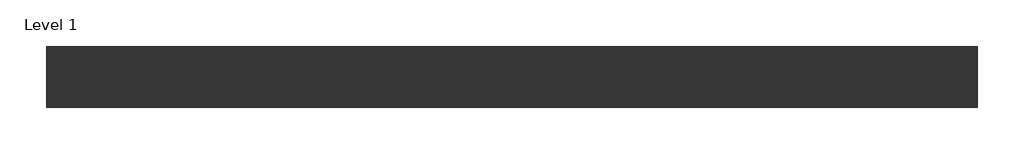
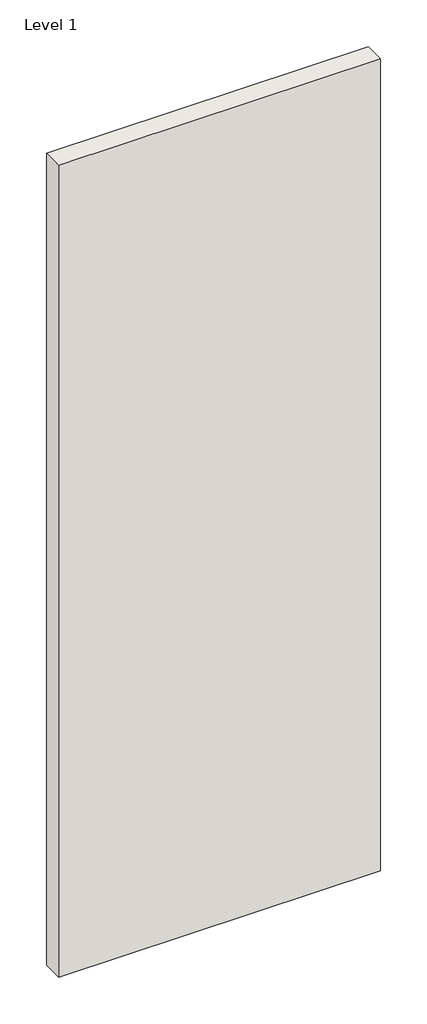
# One storey: 1 wall.
"""IFC4 building model written with IfcOpenShell, lengths in millimetres."""

from ifc_helpers import new_model, si_unit, origin, origin_with_axes, place, context, project, spatial, polyline, outline, extrude, element, save

model = new_model("IFC4")

# Units and contexts
model_context = context("Model", 3, world=origin())
ifc_project = project(units=[si_unit("LENGTHUNIT", "METRE", prefix="MILLI")], contexts=[model_context])

# Site, building, storey
site = spatial("IfcSite", under=ifc_project)
building = spatial("IfcBuilding", under=site)
storey = spatial("IfcBuildingStorey", under=building, Name="Level 1", Elevation=0.0)

# Wall
placement = place(None, origin())
element("IfcWall", 1, ObjectType="Tabique Simple – Placo® 78(48) BA15 + 48LM + BA15 c/600 - 43,2 dBA", at=placement, inside=storey, context=model_context, shape_type="SweptSolid", body=[
    extrude(outline(polyline([(-28676.4711674, -78952.3970389), (-29876.4711674, -78952.3970389), (-29876.4711674, -78874.3970389), (-28676.4711674, -78874.3970389), (-28676.4711674, -78952.3970389)])), origin_with_axes(), (0.0, 0.0, 1.0), 3200.0),
])

save(model, "model.ifc")
